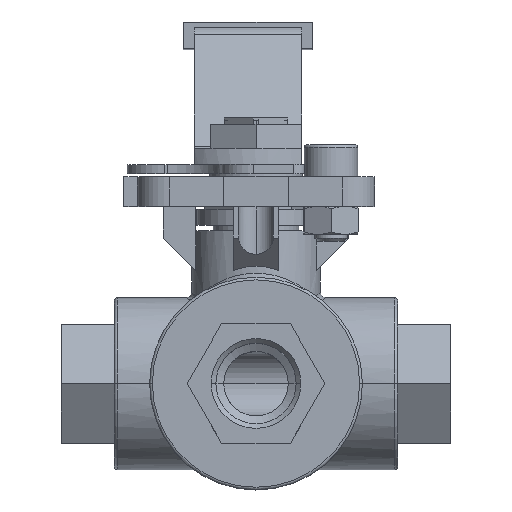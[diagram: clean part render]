
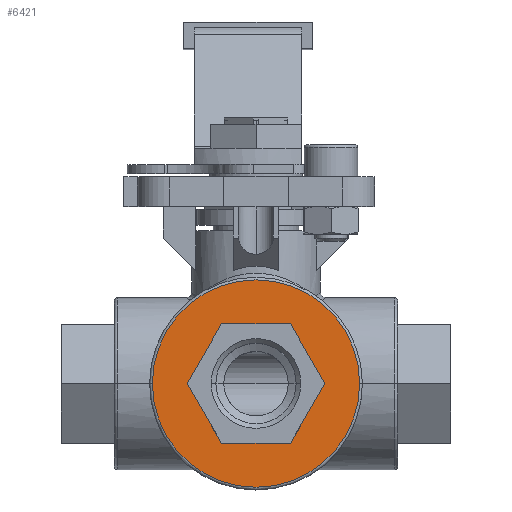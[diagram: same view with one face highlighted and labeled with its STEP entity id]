
A CAD part, top view. The second image highlights one B-rep face of the part: STEP entity #6421.
In plain terms, the highlighted planar face has unit normal (0, 0, 1).
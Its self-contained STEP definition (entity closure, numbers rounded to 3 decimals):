
#314 = AXIS2_PLACEMENT_3D ( 'NONE', #4332, #1466, #1424 ) ;
#391 = DIRECTION ( 'NONE',  ( 0.5, 0.866, 0. ) ) ;
#444 = VECTOR ( 'NONE', #391, 1000. ) ;
#482 = CARTESIAN_POINT ( 'NONE',  ( 6.409, -11.1, 25.75 ) ) ;
#893 = DIRECTION ( 'NONE',  ( 1., 0., 0. ) ) ;
#1303 = VERTEX_POINT ( 'NONE', #5157 ) ;
#1338 = CARTESIAN_POINT ( 'NONE',  ( -12.817, 0., 25.75 ) ) ;
#1424 = DIRECTION ( 'NONE',  ( 1., 0., 0. ) ) ;
#1466 = DIRECTION ( 'NONE',  ( 0., 0., 1. ) ) ;
#1470 = VERTEX_POINT ( 'NONE', #8968 ) ;
#2037 = EDGE_CURVE ( 'NONE', #4088, #9203, #3913, .T. ) ;
#2419 = CARTESIAN_POINT ( 'NONE',  ( -6.409, 11.1, 25.75 ) ) ;
#3045 = DIRECTION ( 'NONE',  ( 0.5, -0.866, 0. ) ) ;
#3191 = CIRCLE ( 'NONE', #314, 19.3 ) ;
#3286 = ORIENTED_EDGE ( 'NONE', *, *, #3628, .F. ) ;
#3370 = PLANE ( 'NONE',  #10932 ) ;
#3582 = EDGE_CURVE ( 'NONE', #1303, #4088, #4901, .T. ) ;
#3628 = EDGE_CURVE ( 'NONE', #9203, #1470, #7318, .T. ) ;
#3853 = CARTESIAN_POINT ( 'NONE',  ( -12.817, 0., 25.75 ) ) ;
#3913 = LINE ( 'NONE', #2419, #8736 ) ;
#3991 = EDGE_CURVE ( 'NONE', #1470, #8447, #12456, .T. ) ;
#4088 = VERTEX_POINT ( 'NONE', #9655 ) ;
#4151 = VECTOR ( 'NONE', #6651, 1000. ) ;
#4332 = CARTESIAN_POINT ( 'NONE',  ( 0., 0., 25.75 ) ) ;
#4347 = CARTESIAN_POINT ( 'NONE',  ( 0., 0., 25.75 ) ) ;
#4558 = FACE_BOUND ( 'NONE', #10787, .T. ) ;
#4608 = VERTEX_POINT ( 'NONE', #11893 ) ;
#4617 = ORIENTED_EDGE ( 'NONE', *, *, #12130, .T. ) ;
#4688 = ORIENTED_EDGE ( 'NONE', *, *, #4738, .F. ) ;
#4717 = VECTOR ( 'NONE', #11303, 1000. ) ;
#4738 = EDGE_CURVE ( 'NONE', #8447, #9153, #9044, .T. ) ;
#4901 = LINE ( 'NONE', #11652, #11696 ) ;
#5073 = CARTESIAN_POINT ( 'NONE',  ( 12.817, 0., 25.75 ) ) ;
#5157 = CARTESIAN_POINT ( 'NONE',  ( 6.409, 11.1, 25.75 ) ) ;
#5165 = ORIENTED_EDGE ( 'NONE', *, *, #3582, .F. ) ;
#5296 = DIRECTION ( 'NONE',  ( 1., 0., 0. ) ) ;
#5645 = EDGE_CURVE ( 'NONE', #9153, #1303, #11365, .T. ) ;
#5823 = ORIENTED_EDGE ( 'NONE', *, *, #8981, .T. ) ;
#6421 = ADVANCED_FACE ( 'NONE', ( #6801, #4558 ), #3370, .T. ) ;
#6637 = ORIENTED_EDGE ( 'NONE', *, *, #2037, .F. ) ;
#6651 = DIRECTION ( 'NONE',  ( 1., 0., 0. ) ) ;
#6801 = FACE_OUTER_BOUND ( 'NONE', #8319, .T. ) ;
#6861 = VECTOR ( 'NONE', #3045, 1000. ) ;
#7318 = LINE ( 'NONE', #3853, #6861 ) ;
#7373 = ORIENTED_EDGE ( 'NONE', *, *, #3991, .F. ) ;
#7665 = DIRECTION ( 'NONE',  ( 0., 0., 1. ) ) ;
#8319 = EDGE_LOOP ( 'NONE', ( #4617, #5823 ) ) ;
#8447 = VERTEX_POINT ( 'NONE', #10050 ) ;
#8666 = DIRECTION ( 'NONE',  ( -1., 0., 0. ) ) ;
#8736 = VECTOR ( 'NONE', #9119, 1000. ) ;
#8968 = CARTESIAN_POINT ( 'NONE',  ( -6.409, -11.1, 25.75 ) ) ;
#8981 = EDGE_CURVE ( 'NONE', #12043, #4608, #9224, .T. ) ;
#9044 = LINE ( 'NONE', #482, #444 ) ;
#9119 = DIRECTION ( 'NONE',  ( -0.5, -0.866, 0. ) ) ;
#9153 = VERTEX_POINT ( 'NONE', #5073 ) ;
#9203 = VERTEX_POINT ( 'NONE', #1338 ) ;
#9224 = CIRCLE ( 'NONE', #10627, 19.3 ) ;
#9655 = CARTESIAN_POINT ( 'NONE',  ( -6.409, 11.1, 25.75 ) ) ;
#9909 = ORIENTED_EDGE ( 'NONE', *, *, #5645, .F. ) ;
#10050 = CARTESIAN_POINT ( 'NONE',  ( 6.409, -11.1, 25.75 ) ) ;
#10383 = CARTESIAN_POINT ( 'NONE',  ( 12.817, 0., 25.75 ) ) ;
#10627 = AXIS2_PLACEMENT_3D ( 'NONE', #12440, #7665, #893 ) ;
#10787 = EDGE_LOOP ( 'NONE', ( #9909, #4688, #7373, #3286, #6637, #5165 ) ) ;
#10932 = AXIS2_PLACEMENT_3D ( 'NONE', #4347, #11093, #5296 ) ;
#11093 = DIRECTION ( 'NONE',  ( 0., 0., 1. ) ) ;
#11303 = DIRECTION ( 'NONE',  ( -0.5, 0.866, 0. ) ) ;
#11365 = LINE ( 'NONE', #10383, #4717 ) ;
#11652 = CARTESIAN_POINT ( 'NONE',  ( 6.409, 11.1, 25.75 ) ) ;
#11696 = VECTOR ( 'NONE', #8666, 1000. ) ;
#11873 = CARTESIAN_POINT ( 'NONE',  ( -19.3, 0., 25.75 ) ) ;
#11893 = CARTESIAN_POINT ( 'NONE',  ( 19.3, 0., 25.75 ) ) ;
#12043 = VERTEX_POINT ( 'NONE', #11873 ) ;
#12130 = EDGE_CURVE ( 'NONE', #4608, #12043, #3191, .T. ) ;
#12399 = CARTESIAN_POINT ( 'NONE',  ( -6.409, -11.1, 25.75 ) ) ;
#12440 = CARTESIAN_POINT ( 'NONE',  ( 0., 0., 25.75 ) ) ;
#12456 = LINE ( 'NONE', #12399, #4151 ) ;
